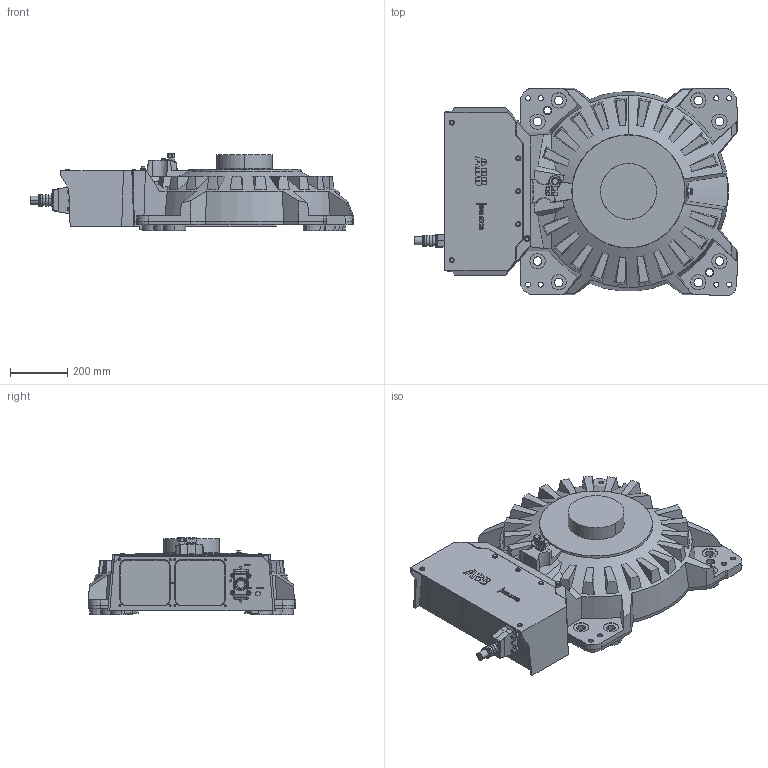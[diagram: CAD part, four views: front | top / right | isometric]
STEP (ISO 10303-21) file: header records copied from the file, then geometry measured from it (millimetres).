
FILE_DESCRIPTION (( 'STEP AP214' ), '1' );
FILE_NAME ('IRB5710-MH3_90kg-270_OC_01_BASE_CAD.step', '2025-07-08T11:34:17', ( '' ), ( '' ), 'SwSTEP 2.0', 'SolidWorks 2024', '' );
FILE_SCHEMA (( 'AUTOMOTIVE_DESIGN' ));
Length unit declared in the file: millimetre
Products named in the file (1): IRB5710-MH3_90kg-270_OC_01_BASE_CAD
Bounding box: 1128.5 x 724 x 269.5 mm (x, y, z)
Volume: 96498307.9 mm3; surface area: 2209613 mm2
Topology: 1 solids, 4 shells, 1224 faces, 3135 edges, 2043 vertices
Faces by surface type: plane 704, cylinder 276, cone 141, bspline 93, torus 6, sphere 4
Entity records: 55718 total; most frequent: CARTESIAN_POINT 12899, ORIENTED_EDGE 6262, DIRECTION 5756, EDGE_CURVE 3131, VERTEX_POINT 2043, AXIS2_PLACEMENT_3D 1951, VECTOR 1854, LINE 1854
